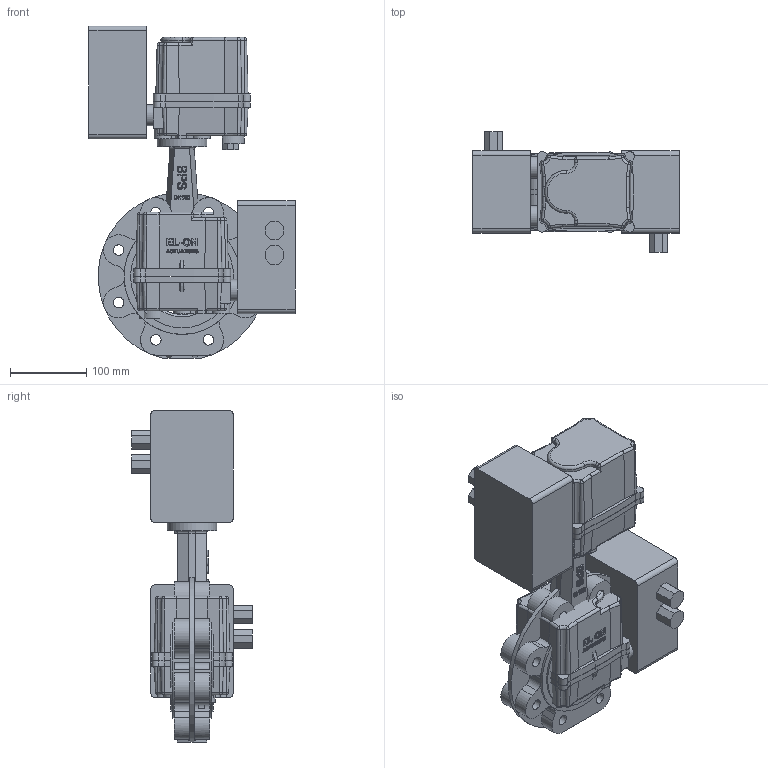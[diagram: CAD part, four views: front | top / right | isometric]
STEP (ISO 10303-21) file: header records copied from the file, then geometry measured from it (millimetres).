
FILE_DESCRIPTION( ( 'Unknown' ), '1' );
FILE_NAME( 'C:/Documents and Settings/aivar/Desktop/BPS 2313100ER butterfly valve DN100.stp', 'Unknown', ( 'Unknown' ), ( 'Unknown' ), 'PSStep 10.1', 'Unknown', ' ' );
FILE_SCHEMA( ( 'AUTOMOTIVE_DESIGN { 1 0 10303 214 1 1 1 1 }' ) );
Length unit declared in the file: millimetre
Products named in the file (4): Assem1; BPS 8010058 electric actuator DN40-100; Butterfly valve lug type DN100 PN10-16 BPS
Bounding box: 270 x 158 x 435 mm (x, y, z)
Volume: 7910383 mm3; surface area: 702127.2 mm2
Topology: 6 solids, 6 shells, 1266 faces, 3372 edges, 2186 vertices
Faces by surface type: plane 474, cylinder 344, extrusion 274, cone 84, bspline 56, torus 34
Full cylindrical faces by diameter (mm): 4.134 x16, 4.917 x8, 6.647 x8, 7 x8, 13.835 x16, 28 x4, 65 x2, 100 x2, 135 x4, 152 x4
Entity records: 31617 total; most frequent: CARTESIAN_POINT 11444, ORIENTED_EDGE 3134, DIRECTION 2848, EDGE_CURVE 1567, VERTEX_POINT 1061, VECTOR 976, AXIS2_PLACEMENT_3D 936, LINE 839
